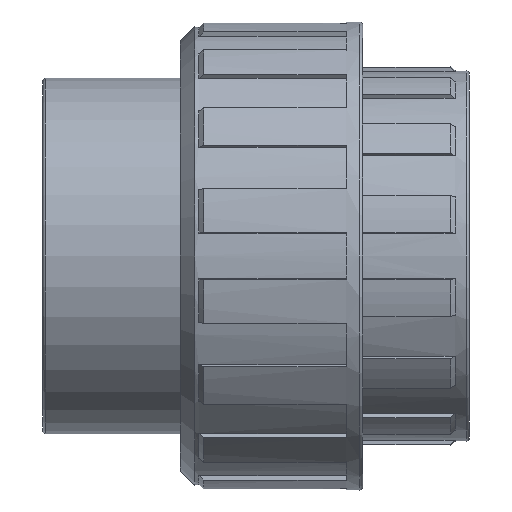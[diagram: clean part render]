
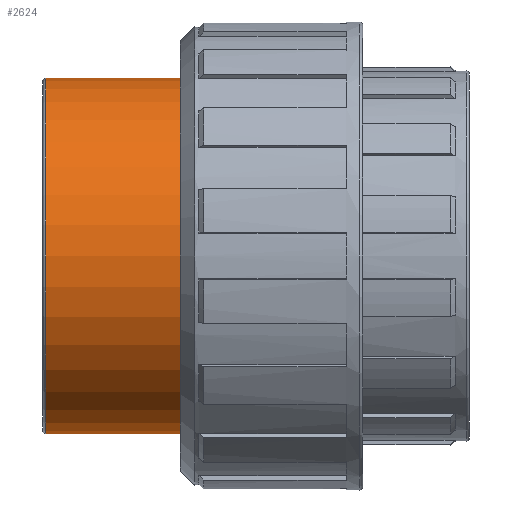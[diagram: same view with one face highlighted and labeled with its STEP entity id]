
A CAD part, front view. The second image highlights one B-rep face of the part: STEP entity #2624.
In plain terms, the highlighted cylindrical face has radius 30 mm (diameter 60 mm), a full revolution.
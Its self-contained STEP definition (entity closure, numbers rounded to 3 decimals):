
#63=FACE_BOUND('',#516,.T.);
#90=CYLINDRICAL_SURFACE('',#2898,30.);
#224=CIRCLE('',#2897,30.);
#225=CIRCLE('',#2899,30.);
#362=FACE_OUTER_BOUND('',#515,.T.);
#515=EDGE_LOOP('',(#2319));
#516=EDGE_LOOP('',(#2320));
#1266=VERTEX_POINT('',#4468);
#1267=VERTEX_POINT('',#4471);
#1643=EDGE_CURVE('',#1266,#1266,#224,.T.);
#1644=EDGE_CURVE('',#1267,#1267,#225,.T.);
#2319=ORIENTED_EDGE('',*,*,#1644,.T.);
#2320=ORIENTED_EDGE('',*,*,#1643,.F.);
#2624=ADVANCED_FACE('',(#362,#63),#90,.T.);
#2897=AXIS2_PLACEMENT_3D('',#4469,#3676,#3677);
#2898=AXIS2_PLACEMENT_3D('',#4470,#3678,#3679);
#2899=AXIS2_PLACEMENT_3D('',#4472,#3680,#3681);
#3676=DIRECTION('center_axis',(-1.,0.,0.));
#3677=DIRECTION('ref_axis',(0.,1.,0.));
#3678=DIRECTION('center_axis',(-1.,0.,0.));
#3679=DIRECTION('ref_axis',(0.,-1.,0.));
#3680=DIRECTION('center_axis',(-1.,0.,0.));
#3681=DIRECTION('ref_axis',(0.,0.,1.));
#4468=CARTESIAN_POINT('',(-35.5,-30.,0.));
#4469=CARTESIAN_POINT('Origin',(-35.5,0.,0.));
#4470=CARTESIAN_POINT('Origin',(-24.375,0.,0.));
#4471=CARTESIAN_POINT('',(-12.75,-30.,0.));
#4472=CARTESIAN_POINT('Origin',(-12.75,0.,0.));
